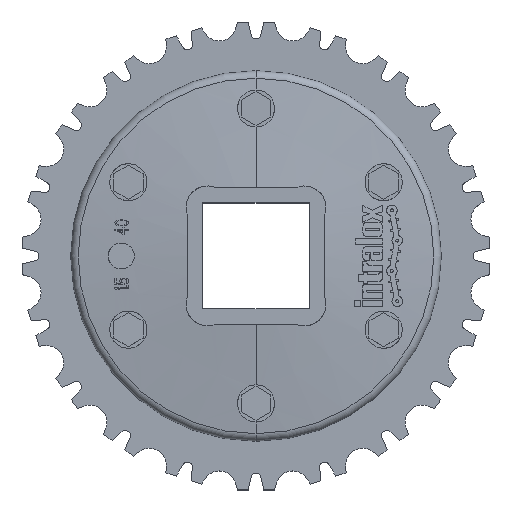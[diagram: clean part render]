
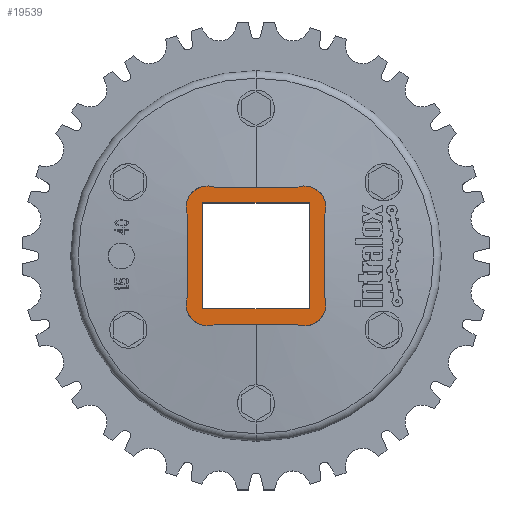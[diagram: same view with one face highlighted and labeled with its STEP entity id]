
A CAD part, top view. The second image highlights one B-rep face of the part: STEP entity #19539.
In plain terms, the highlighted planar face has unit normal (0, 0, 1) as drawn and (0, 1, 0) by its records, which use the part's own axes.
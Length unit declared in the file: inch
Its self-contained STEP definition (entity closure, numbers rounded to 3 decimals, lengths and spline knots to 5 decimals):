
#12562=DIRECTION('',(0.,0.,1.));
#12563=VECTOR('',#12562,1.21061);
#12564=CARTESIAN_POINT('',(-1.0175,0.67,-0.60531));
#12565=LINE('',#12564,#12563);
#12566=CARTESIAN_POINT('',(-0.718,0.67,-0.718));
#12567=DIRECTION('',(0.,1.,0.));
#12568=DIRECTION('',(0.352,0.,-0.936));
#12569=AXIS2_PLACEMENT_3D('',#12566,#12567,#12568);
#12571=DIRECTION('',(-1.,0.,0.));
#12572=VECTOR('',#12571,1.21061);
#12573=CARTESIAN_POINT('',(0.60531,0.67,-1.0175));
#12574=LINE('',#12573,#12572);
#12575=CARTESIAN_POINT('',(0.718,0.67,-0.718));
#12576=DIRECTION('',(0.,1.,0.));
#12577=DIRECTION('',(0.936,0.,0.352));
#12578=AXIS2_PLACEMENT_3D('',#12575,#12576,#12577);
#12580=DIRECTION('',(0.,0.,-1.));
#12581=VECTOR('',#12580,1.21061);
#12582=CARTESIAN_POINT('',(1.0175,0.67,0.60531));
#12583=LINE('',#12582,#12581);
#12584=CARTESIAN_POINT('',(0.718,0.67,0.718));
#12585=DIRECTION('',(0.,1.,0.));
#12586=DIRECTION('',(-0.352,0.,0.936));
#12587=AXIS2_PLACEMENT_3D('',#12584,#12585,#12586);
#12589=DIRECTION('',(1.,0.,0.));
#12590=VECTOR('',#12589,1.21061);
#12591=CARTESIAN_POINT('',(-0.60531,0.67,1.0175));
#12592=LINE('',#12591,#12590);
#12593=CARTESIAN_POINT('',(-0.718,0.67,0.718));
#12594=DIRECTION('',(0.,1.,0.));
#12595=DIRECTION('',(-0.936,0.,-0.352));
#12596=AXIS2_PLACEMENT_3D('',#12593,#12594,#12595);
#12598=DIRECTION('',(-1.,0.,0.));
#12599=VECTOR('',#12598,1.575);
#12600=CARTESIAN_POINT('',(0.7875,0.67,-0.7875));
#12601=LINE('',#12600,#12599);
#12602=DIRECTION('',(0.,0.,1.));
#12603=VECTOR('',#12602,1.575);
#12604=CARTESIAN_POINT('',(-0.7875,0.67,-0.7875));
#12605=LINE('',#12604,#12603);
#12606=DIRECTION('',(1.,0.,0.));
#12607=VECTOR('',#12606,1.575);
#12608=CARTESIAN_POINT('',(-0.7875,0.67,0.7875));
#12609=LINE('',#12608,#12607);
#12610=DIRECTION('',(0.,0.,-1.));
#12611=VECTOR('',#12610,1.575);
#12612=CARTESIAN_POINT('',(0.7875,0.67,0.7875));
#12613=LINE('',#12612,#12611);
#12884=CARTESIAN_POINT('',(-1.0175,0.67,-0.60531));
#12885=CARTESIAN_POINT('',(-1.0175,0.67,0.60531));
#12886=VERTEX_POINT('',#12884);
#12887=VERTEX_POINT('',#12885);
#12888=CARTESIAN_POINT('',(-0.60531,0.67,1.0175));
#12889=VERTEX_POINT('',#12888);
#12890=CARTESIAN_POINT('',(0.60531,0.67,1.0175));
#12891=VERTEX_POINT('',#12890);
#12892=CARTESIAN_POINT('',(1.0175,0.67,0.60531));
#12893=VERTEX_POINT('',#12892);
#12894=CARTESIAN_POINT('',(1.0175,0.67,-0.60531));
#12895=VERTEX_POINT('',#12894);
#12896=CARTESIAN_POINT('',(0.60531,0.67,-1.0175));
#12897=VERTEX_POINT('',#12896);
#12898=CARTESIAN_POINT('',(-0.60531,0.67,-1.0175));
#12899=VERTEX_POINT('',#12898);
#13644=CARTESIAN_POINT('',(0.7875,0.67,-0.7875));
#13645=VERTEX_POINT('',#13644);
#13646=CARTESIAN_POINT('',(-0.7875,0.67,-0.7875));
#13647=VERTEX_POINT('',#13646);
#13648=CARTESIAN_POINT('',(-0.7875,0.67,0.7875));
#13649=VERTEX_POINT('',#13648);
#13650=CARTESIAN_POINT('',(0.7875,0.67,0.7875));
#13651=VERTEX_POINT('',#13650);
#19514=CARTESIAN_POINT('',(0.,0.67,0.));
#19515=DIRECTION('',(0.,1.,0.));
#19516=DIRECTION('',(-1.,0.,0.));
#19517=AXIS2_PLACEMENT_3D('',#19514,#19515,#19516);
#19518=PLANE('',#19517);
#19519=ORIENTED_EDGE('',*,*,#19408,.F.);
#19520=ORIENTED_EDGE('',*,*,#19424,.F.);
#19521=ORIENTED_EDGE('',*,*,#19438,.F.);
#19522=ORIENTED_EDGE('',*,*,#19452,.F.);
#19523=ORIENTED_EDGE('',*,*,#19467,.F.);
#19524=ORIENTED_EDGE('',*,*,#19481,.F.);
#19525=ORIENTED_EDGE('',*,*,#19495,.F.);
#19526=ORIENTED_EDGE('',*,*,#19508,.F.);
#19527=EDGE_LOOP('',(#19519,#19520,#19521,#19522,#19523,#19524,#19525,#19526));
#19528=FACE_OUTER_BOUND('',#19527,.F.);
#19530=ORIENTED_EDGE('',*,*,#19529,.T.);
#19532=ORIENTED_EDGE('',*,*,#19531,.T.);
#19534=ORIENTED_EDGE('',*,*,#19533,.T.);
#19536=ORIENTED_EDGE('',*,*,#19535,.T.);
#19537=EDGE_LOOP('',(#19530,#19532,#19534,#19536));
#19538=FACE_BOUND('',#19537,.F.);
#19539=ADVANCED_FACE('',(#19528,#19538),#19518,.T.);
#12570=CIRCLE('',#12569,0.32);
#12579=CIRCLE('',#12578,0.32);
#12588=CIRCLE('',#12587,0.32);
#12597=CIRCLE('',#12596,0.32);
#19408=EDGE_CURVE('',#12886,#12887,#12565,.T.);
#19424=EDGE_CURVE('',#12899,#12886,#12570,.T.);
#19438=EDGE_CURVE('',#12897,#12899,#12574,.T.);
#19452=EDGE_CURVE('',#12895,#12897,#12579,.T.);
#19467=EDGE_CURVE('',#12893,#12895,#12583,.T.);
#19481=EDGE_CURVE('',#12891,#12893,#12588,.T.);
#19495=EDGE_CURVE('',#12889,#12891,#12592,.T.);
#19508=EDGE_CURVE('',#12887,#12889,#12597,.T.);
#19529=EDGE_CURVE('',#13645,#13647,#12601,.T.);
#19531=EDGE_CURVE('',#13647,#13649,#12605,.T.);
#19533=EDGE_CURVE('',#13649,#13651,#12609,.T.);
#19535=EDGE_CURVE('',#13651,#13645,#12613,.T.);
